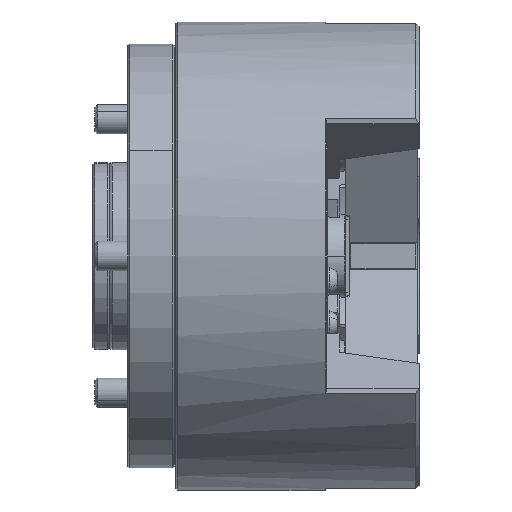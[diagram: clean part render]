
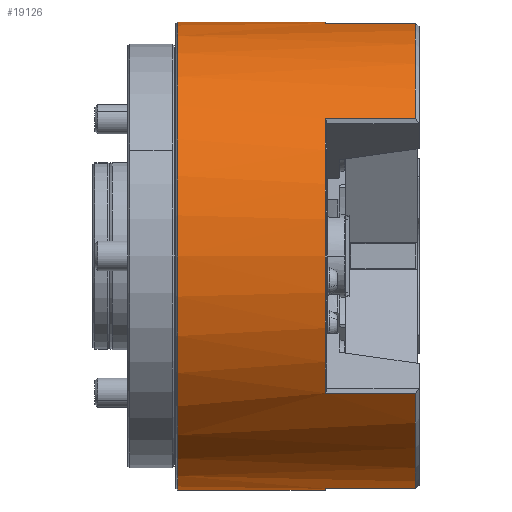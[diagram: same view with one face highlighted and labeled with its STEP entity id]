
A CAD part, front view. The second image highlights one B-rep face of the part: STEP entity #19126.
In plain terms, the highlighted cylindrical face has radius 127 mm (diameter 254 mm), a partial arc.
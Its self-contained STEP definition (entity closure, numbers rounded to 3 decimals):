
#75 = VECTOR ( 'NONE', #27077, 1000. ) ;
#543 = EDGE_CURVE ( 'NONE', #23049, #7719, #5190, .T. ) ;
#810 = DIRECTION ( 'NONE',  ( 1., 0., 0. ) ) ;
#999 = CYLINDRICAL_SURFACE ( 'NONE', #26993, 127. ) ;
#1229 = CARTESIAN_POINT ( 'NONE',  ( 76., 0., 127. ) ) ;
#1460 = CARTESIAN_POINT ( 'NONE',  ( 125., -13.044, 126.328 ) ) ;
#1997 = ORIENTED_EDGE ( 'NONE', *, *, #30752, .T. ) ;
#2736 = VERTEX_POINT ( 'NONE', #13914 ) ;
#2819 = DIRECTION ( 'NONE',  ( -1., 0., 0. ) ) ;
#2891 = AXIS2_PLACEMENT_3D ( 'NONE', #11173, #29339, #13787 ) ;
#3089 = ORIENTED_EDGE ( 'NONE', *, *, #28995, .T. ) ;
#3302 = DIRECTION ( 'NONE',  ( 1., 0., 0. ) ) ;
#3467 = VERTEX_POINT ( 'NONE', #24678 ) ;
#3548 = DIRECTION ( 'NONE',  ( -1., 0., 0. ) ) ;
#3735 = VERTEX_POINT ( 'NONE', #33681 ) ;
#3955 = VERTEX_POINT ( 'NONE', #32277 ) ;
#4106 = CIRCLE ( 'NONE', #7500, 127. ) ;
#4363 = DIRECTION ( 'NONE',  ( 1., 0., 0. ) ) ;
#5190 = LINE ( 'NONE', #7955, #10429 ) ;
#5426 = CIRCLE ( 'NONE', #24319, 127. ) ;
#5483 = VECTOR ( 'NONE', #27697, 1000. ) ;
#5749 = DIRECTION ( 'NONE',  ( 1., 0., 0. ) ) ;
#5938 = DIRECTION ( 'NONE',  ( 0., 0., -1. ) ) ;
#7406 = CARTESIAN_POINT ( 'NONE',  ( 76., -102.881, -74.461 ) ) ;
#7500 = AXIS2_PLACEMENT_3D ( 'NONE', #19097, #3548, #21723 ) ;
#7609 = EDGE_CURVE ( 'NONE', #8489, #7719, #16237, .T. ) ;
#7719 = VERTEX_POINT ( 'NONE', #1229 ) ;
#7767 = CARTESIAN_POINT ( 'NONE',  ( 76., -13.044, 126.328 ) ) ;
#7955 = CARTESIAN_POINT ( 'NONE',  ( 63.843, 0., 127. ) ) ;
#8489 = VERTEX_POINT ( 'NONE', #7767 ) ;
#8584 = DIRECTION ( 'NONE',  ( 1., 0., 0. ) ) ;
#8598 = AXIS2_PLACEMENT_3D ( 'NONE', #18336, #2819, #20973 ) ;
#8779 = DIRECTION ( 'NONE',  ( -1., 0., 0. ) ) ;
#8974 = ORIENTED_EDGE ( 'NONE', *, *, #543, .F. ) ;
#9035 = CARTESIAN_POINT ( 'NONE',  ( 125., -102.881, 74.461 ) ) ;
#10059 = CIRCLE ( 'NONE', #8598, 127. ) ;
#10429 = VECTOR ( 'NONE', #26102, 1000. ) ;
#11173 = CARTESIAN_POINT ( 'NONE',  ( 76., 0., 0. ) ) ;
#11507 = CARTESIAN_POINT ( 'NONE',  ( 63.843, -102.881, 74.461 ) ) ;
#12149 = CARTESIAN_POINT ( 'NONE',  ( 63.843, -13.044, 126.328 ) ) ;
#12268 = VECTOR ( 'NONE', #810, 1000. ) ;
#12695 = CARTESIAN_POINT ( 'NONE',  ( 76., -102.881, 74.461 ) ) ;
#13039 = ORIENTED_EDGE ( 'NONE', *, *, #15098, .F. ) ;
#13626 = DIRECTION ( 'NONE',  ( 1., 0., 0. ) ) ;
#13717 = CARTESIAN_POINT ( 'NONE',  ( 63.843, -13.044, -126.328 ) ) ;
#13787 = DIRECTION ( 'NONE',  ( 0., 0., -1. ) ) ;
#13914 = CARTESIAN_POINT ( 'NONE',  ( 76., -13.044, -126.328 ) ) ;
#14002 = CIRCLE ( 'NONE', #18215, 127. ) ;
#14378 = LINE ( 'NONE', #27055, #26544 ) ;
#14683 = EDGE_CURVE ( 'NONE', #3467, #22757, #14378, .T. ) ;
#15098 = EDGE_CURVE ( 'NONE', #3467, #28607, #5426, .T. ) ;
#15991 = ORIENTED_EDGE ( 'NONE', *, *, #7609, .T. ) ;
#16237 = CIRCLE ( 'NONE', #2891, 127. ) ;
#16544 = ORIENTED_EDGE ( 'NONE', *, *, #25159, .T. ) ;
#17107 = ORIENTED_EDGE ( 'NONE', *, *, #26213, .T. ) ;
#18176 = ORIENTED_EDGE ( 'NONE', *, *, #23695, .F. ) ;
#18215 = AXIS2_PLACEMENT_3D ( 'NONE', #21312, #5749, #23924 ) ;
#18336 = CARTESIAN_POINT ( 'NONE',  ( 76., 0., 0. ) ) ;
#18481 = AXIS2_PLACEMENT_3D ( 'NONE', #19928, #4363, #22539 ) ;
#18582 = CARTESIAN_POINT ( 'NONE',  ( 63.843, 0., -127. ) ) ;
#18659 = VERTEX_POINT ( 'NONE', #1460 ) ;
#18852 = CARTESIAN_POINT ( 'NONE',  ( 125., 0., 0. ) ) ;
#19097 = CARTESIAN_POINT ( 'NONE',  ( 76., 0., 0. ) ) ;
#19126 = ADVANCED_FACE ( 'NONE', ( #21715 ), #999, .T. ) ;
#19928 = CARTESIAN_POINT ( 'NONE',  ( 125., 0., 0. ) ) ;
#20794 = LINE ( 'NONE', #11507, #75 ) ;
#20973 = DIRECTION ( 'NONE',  ( 0., 0., -1. ) ) ;
#21049 = EDGE_LOOP ( 'NONE', ( #8974, #1997, #31554, #3089, #16544, #13039, #30955, #17107, #31963, #18176, #22680, #15991 ) ) ;
#21312 = CARTESIAN_POINT ( 'NONE',  ( -4., 0., 0. ) ) ;
#21482 = DIRECTION ( 'NONE',  ( 0., 0., -1. ) ) ;
#21539 = EDGE_CURVE ( 'NONE', #18659, #8489, #26194, .T. ) ;
#21715 = FACE_OUTER_BOUND ( 'NONE', #21049, .T. ) ;
#21723 = DIRECTION ( 'NONE',  ( 0., 0., -1. ) ) ;
#22523 = CIRCLE ( 'NONE', #18481, 127. ) ;
#22539 = DIRECTION ( 'NONE',  ( 0., 0., -1. ) ) ;
#22680 = ORIENTED_EDGE ( 'NONE', *, *, #21539, .T. ) ;
#22757 = VERTEX_POINT ( 'NONE', #7406 ) ;
#22957 = EDGE_CURVE ( 'NONE', #3955, #3735, #33104, .T. ) ;
#23049 = VERTEX_POINT ( 'NONE', #32235 ) ;
#23082 = VERTEX_POINT ( 'NONE', #9035 ) ;
#23695 = EDGE_CURVE ( 'NONE', #18659, #23082, #22523, .T. ) ;
#23924 = DIRECTION ( 'NONE',  ( 0., 0., -1. ) ) ;
#24092 = CARTESIAN_POINT ( 'NONE',  ( 63.843, 0., 0. ) ) ;
#24319 = AXIS2_PLACEMENT_3D ( 'NONE', #18852, #3302, #21482 ) ;
#24678 = CARTESIAN_POINT ( 'NONE',  ( 125., -102.881, -74.461 ) ) ;
#25159 = EDGE_CURVE ( 'NONE', #2736, #28607, #27707, .T. ) ;
#25339 = VECTOR ( 'NONE', #8584, 1000. ) ;
#25448 = VERTEX_POINT ( 'NONE', #12695 ) ;
#25821 = EDGE_CURVE ( 'NONE', #25448, #23082, #20794, .T. ) ;
#26102 = DIRECTION ( 'NONE',  ( 1., 0., 0. ) ) ;
#26194 = LINE ( 'NONE', #12149, #5483 ) ;
#26213 = EDGE_CURVE ( 'NONE', #22757, #25448, #4106, .T. ) ;
#26544 = VECTOR ( 'NONE', #8779, 1000. ) ;
#26993 = AXIS2_PLACEMENT_3D ( 'NONE', #24092, #13626, #5938 ) ;
#27055 = CARTESIAN_POINT ( 'NONE',  ( 63.843, -102.881, -74.461 ) ) ;
#27077 = DIRECTION ( 'NONE',  ( 1., 0., 0. ) ) ;
#27697 = DIRECTION ( 'NONE',  ( -1., 0., 0. ) ) ;
#27707 = LINE ( 'NONE', #13717, #12268 ) ;
#28607 = VERTEX_POINT ( 'NONE', #30232 ) ;
#28995 = EDGE_CURVE ( 'NONE', #3735, #2736, #10059, .T. ) ;
#29339 = DIRECTION ( 'NONE',  ( -1., 0., 0. ) ) ;
#30232 = CARTESIAN_POINT ( 'NONE',  ( 125., -13.044, -126.328 ) ) ;
#30752 = EDGE_CURVE ( 'NONE', #23049, #3955, #14002, .T. ) ;
#30955 = ORIENTED_EDGE ( 'NONE', *, *, #14683, .T. ) ;
#31554 = ORIENTED_EDGE ( 'NONE', *, *, #22957, .T. ) ;
#31963 = ORIENTED_EDGE ( 'NONE', *, *, #25821, .T. ) ;
#32235 = CARTESIAN_POINT ( 'NONE',  ( -4., 0., 127. ) ) ;
#32277 = CARTESIAN_POINT ( 'NONE',  ( -4., 0., -127. ) ) ;
#33104 = LINE ( 'NONE', #18582, #25339 ) ;
#33681 = CARTESIAN_POINT ( 'NONE',  ( 76., 0., -127. ) ) ;
